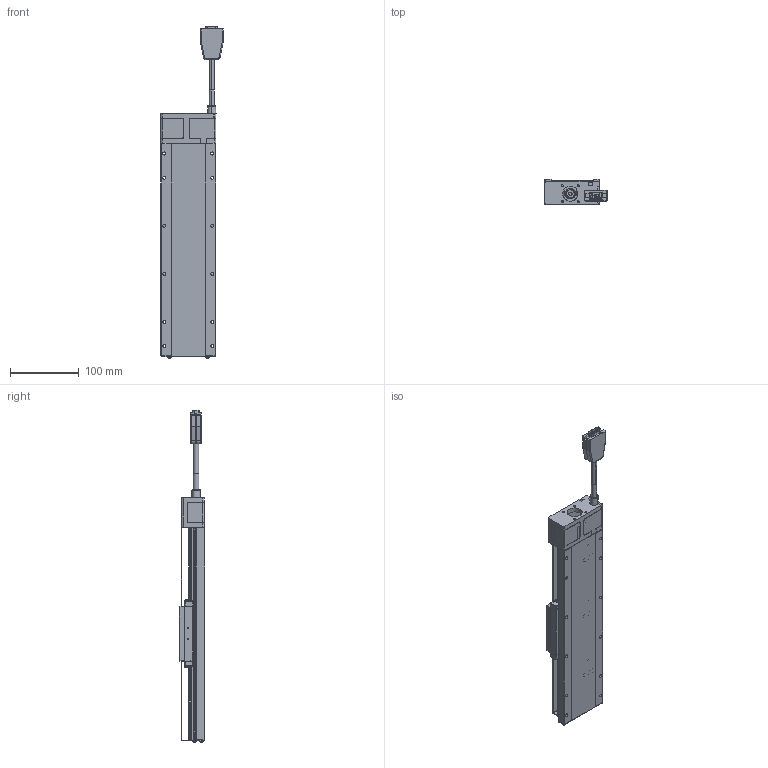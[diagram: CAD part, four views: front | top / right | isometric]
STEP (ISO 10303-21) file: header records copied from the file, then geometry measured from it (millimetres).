
FILE_DESCRIPTION (( 'STEP AP203' ), '1' );
FILE_NAME ('CXC80200-S2?N(µL°¨¹F).S', '2024-01-05T05:31:51', ( '' ), ( '' ), 'SwSTEP 2.0', 'SolidWorks 2019', '' );
FILE_SCHEMA (( 'CONFIG_CONTROL_DESIGN' ));
Length unit declared in the file: millimetre
Products named in the file (8): SC04B006_SCM435(化鎳); Group1^CXC80200-S2?N(28框無馬達)_defeature_GMT; CXC80200-S2?N(無馬達); SD03B006_SD03B006-SCM435(化鎳); Group2^CXC80200-S2?N(28框無馬達)_defeature_GMT; SG02B005_SCM435(化鎳); CXC80-102; CXC80200-S2OPAN-303
Assembly tree (15 placements, depth 2):
  CXC80200-S2?N(無馬達)
    Group1^CXC80200-S2?N(28框無馬達)_defeature_GMT
    Group2^CXC80200-S2?N(28框無馬達)_defeature_GMT
    CXC80200-S2OPAN-303
    SD03B006_SD03B006-SCM435(化鎳)  x4
    SC04B006_SCM435(化鎳)  x4
    CXC80-102  x2
    SG02B005_SCM435(化鎳)  x2
Bounding box: 90.5 x 37 x 483.25 mm (x, y, z)
Volume: 91606.1 mm3; surface area: 211332.2 mm2
Topology: 34 solids, 37 shells, 4661 faces, 11792 edges, 7202 vertices
Faces by surface type: plane 1758, cylinder 1360, cone 614, bspline 431, torus 300, sphere 198
Entity records: 151161 total; most frequent: CARTESIAN_POINT 45959, DIRECTION 21929, ORIENTED_EDGE 21890, EDGE_CURVE 10945, AXIS2_PLACEMENT_3D 8123, VERTEX_POINT 6783, VECTOR 5683, LINE 5683
